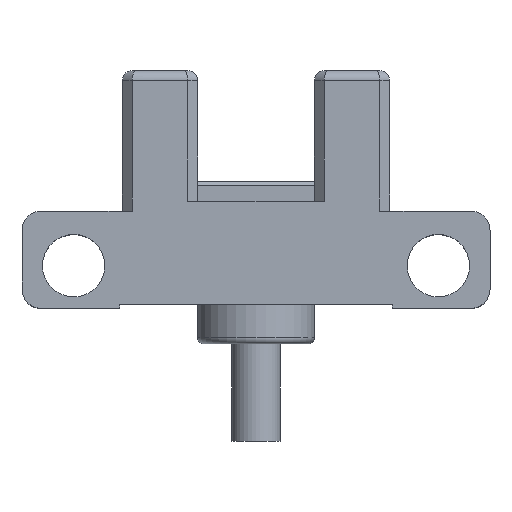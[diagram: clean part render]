
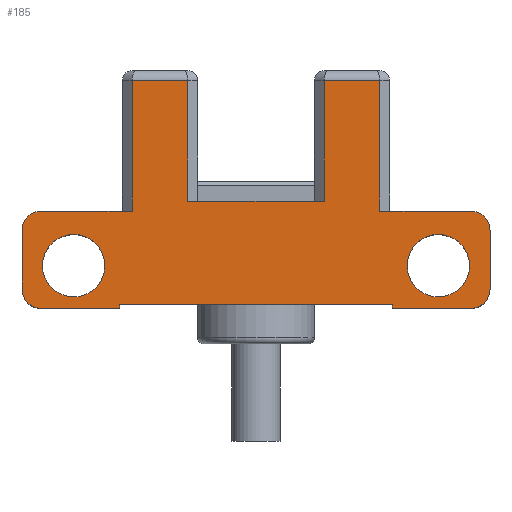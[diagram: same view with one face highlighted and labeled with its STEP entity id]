
A CAD part, top view. The second image highlights one B-rep face of the part: STEP entity #185.
In plain terms, the highlighted planar face has unit normal (0, 0, 1).
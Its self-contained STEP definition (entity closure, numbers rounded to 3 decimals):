
#83=FACE_BOUND('',#406,.T.);
#84=FACE_BOUND('',#407,.T.);
#85=FACE_BOUND('',#408,.T.);
#108=CIRCLE('',#1590,1.);
#110=CIRCLE('',#1593,1.);
#112=CIRCLE('',#1596,1.);
#114=CIRCLE('',#1599,1.);
#116=CIRCLE('',#1648,1.6);
#117=CIRCLE('',#1649,1.6);
#185=ADVANCED_FACE('',(#83,#84,#85),#247,.F.);
#247=PLANE('',#1650);
#406=EDGE_LOOP('',(#696));
#407=EDGE_LOOP('',(#697));
#408=EDGE_LOOP('',(#698,#699,#700,#701,#702,#703,#704,#705,#706,#707,#708,
#709,#710,#711,#712,#713,#714,#715,#716,#717));
#696=ORIENTED_EDGE('',*,*,#1171,.F.);
#697=ORIENTED_EDGE('',*,*,#1172,.T.);
#698=ORIENTED_EDGE('',*,*,#1173,.T.);
#699=ORIENTED_EDGE('',*,*,#1075,.T.);
#700=ORIENTED_EDGE('',*,*,#1174,.T.);
#701=ORIENTED_EDGE('',*,*,#1149,.T.);
#702=ORIENTED_EDGE('',*,*,#1094,.T.);
#703=ORIENTED_EDGE('',*,*,#1145,.T.);
#704=ORIENTED_EDGE('',*,*,#1166,.F.);
#705=ORIENTED_EDGE('',*,*,#1140,.T.);
#706=ORIENTED_EDGE('',*,*,#1106,.T.);
#707=ORIENTED_EDGE('',*,*,#1142,.T.);
#708=ORIENTED_EDGE('',*,*,#1175,.T.);
#709=ORIENTED_EDGE('',*,*,#1063,.T.);
#710=ORIENTED_EDGE('',*,*,#1176,.T.);
#711=ORIENTED_EDGE('',*,*,#1067,.T.);
#712=ORIENTED_EDGE('',*,*,#1177,.T.);
#713=ORIENTED_EDGE('',*,*,#1178,.T.);
#714=ORIENTED_EDGE('',*,*,#1179,.T.);
#715=ORIENTED_EDGE('',*,*,#1180,.T.);
#716=ORIENTED_EDGE('',*,*,#1181,.T.);
#717=ORIENTED_EDGE('',*,*,#1071,.T.);
#904=VERTEX_POINT('',#2239);
#905=VERTEX_POINT('',#2240);
#908=VERTEX_POINT('',#2248);
#909=VERTEX_POINT('',#2249);
#912=VERTEX_POINT('',#2257);
#913=VERTEX_POINT('',#2258);
#916=VERTEX_POINT('',#2266);
#917=VERTEX_POINT('',#2267);
#926=VERTEX_POINT('',#2290);
#930=VERTEX_POINT('',#2302);
#936=VERTEX_POINT('',#2323);
#939=VERTEX_POINT('',#2328);
#961=VERTEX_POINT('',#2397);
#962=VERTEX_POINT('',#2401);
#964=VERTEX_POINT('',#2407);
#967=VERTEX_POINT('',#2415);
#980=VERTEX_POINT('',#2457);
#981=VERTEX_POINT('',#2459);
#982=VERTEX_POINT('',#2465);
#983=VERTEX_POINT('',#2467);
#984=VERTEX_POINT('',#2469);
#985=VERTEX_POINT('',#2471);
#1063=EDGE_CURVE('',#904,#905,#108,.T.);
#1067=EDGE_CURVE('',#908,#909,#110,.T.);
#1071=EDGE_CURVE('',#912,#913,#112,.T.);
#1075=EDGE_CURVE('',#916,#917,#114,.T.);
#1094=EDGE_CURVE('',#930,#926,#1284,.T.);
#1106=EDGE_CURVE('',#936,#939,#1292,.T.);
#1140=EDGE_CURVE('',#961,#936,#1320,.T.);
#1142=EDGE_CURVE('',#939,#962,#1322,.T.);
#1145=EDGE_CURVE('',#926,#964,#1325,.T.);
#1149=EDGE_CURVE('',#967,#930,#1329,.T.);
#1166=EDGE_CURVE('',#961,#964,#1346,.T.);
#1171=EDGE_CURVE('',#980,#980,#116,.T.);
#1172=EDGE_CURVE('',#981,#981,#117,.T.);
#1173=EDGE_CURVE('',#913,#916,#1351,.T.);
#1174=EDGE_CURVE('',#917,#967,#1352,.T.);
#1175=EDGE_CURVE('',#962,#904,#1353,.T.);
#1176=EDGE_CURVE('',#905,#908,#1354,.T.);
#1177=EDGE_CURVE('',#909,#982,#1355,.T.);
#1178=EDGE_CURVE('',#982,#983,#1356,.T.);
#1179=EDGE_CURVE('',#983,#984,#1357,.T.);
#1180=EDGE_CURVE('',#984,#985,#1358,.T.);
#1181=EDGE_CURVE('',#985,#912,#1359,.T.);
#1284=LINE('',#2305,#1460);
#1292=LINE('',#2329,#1468);
#1320=LINE('',#2396,#1496);
#1322=LINE('',#2400,#1498);
#1325=LINE('',#2406,#1501);
#1329=LINE('',#2414,#1505);
#1346=LINE('',#2448,#1522);
#1351=LINE('',#2460,#1527);
#1352=LINE('',#2461,#1528);
#1353=LINE('',#2462,#1529);
#1354=LINE('',#2463,#1530);
#1355=LINE('',#2464,#1531);
#1356=LINE('',#2466,#1532);
#1357=LINE('',#2468,#1533);
#1358=LINE('',#2470,#1534);
#1359=LINE('',#2472,#1535);
#1460=VECTOR('',#1873,1.);
#1468=VECTOR('',#1897,1.);
#1496=VECTOR('',#1961,1.);
#1498=VECTOR('',#1965,1.);
#1501=VECTOR('',#1970,1.);
#1505=VECTOR('',#1976,1.);
#1522=VECTOR('',#2003,1.);
#1527=VECTOR('',#2016,1.);
#1528=VECTOR('',#2017,1.);
#1529=VECTOR('',#2018,1.);
#1530=VECTOR('',#2019,1.);
#1531=VECTOR('',#2020,1.);
#1532=VECTOR('',#2021,1.);
#1533=VECTOR('',#2022,1.);
#1534=VECTOR('',#2023,1.);
#1535=VECTOR('',#2024,1.);
#1590=AXIS2_PLACEMENT_3D('',#2238,#1812,#1813);
#1593=AXIS2_PLACEMENT_3D('',#2247,#1820,#1821);
#1596=AXIS2_PLACEMENT_3D('',#2256,#1828,#1829);
#1599=AXIS2_PLACEMENT_3D('',#2265,#1836,#1837);
#1648=AXIS2_PLACEMENT_3D('',#2456,#2012,#2013);
#1649=AXIS2_PLACEMENT_3D('',#2458,#2014,#2015);
#1650=AXIS2_PLACEMENT_3D('',#2473,#2025,#2026);
#1812=DIRECTION('',(0.,0.,1.));
#1813=DIRECTION('',(-1.,0.,0.));
#1820=DIRECTION('',(0.,0.,1.));
#1821=DIRECTION('',(-1.,0.,0.));
#1828=DIRECTION('',(0.,0.,1.));
#1829=DIRECTION('',(-1.,0.,0.));
#1836=DIRECTION('',(0.,0.,1.));
#1837=DIRECTION('',(-1.,0.,0.));
#1873=DIRECTION('',(-1.,0.,0.));
#1897=DIRECTION('',(-1.,0.,0.));
#1961=DIRECTION('',(0.,1.,0.));
#1965=DIRECTION('',(0.,-1.,0.));
#1970=DIRECTION('',(0.,-1.,0.));
#1976=DIRECTION('',(0.,1.,0.));
#2003=DIRECTION('',(1.,0.,0.));
#2012=DIRECTION('',(0.,0.,1.));
#2013=DIRECTION('',(1.,0.,0.));
#2014=DIRECTION('',(0.,0.,-1.));
#2015=DIRECTION('',(-1.,0.,0.));
#2016=DIRECTION('',(0.,1.,0.));
#2017=DIRECTION('',(-1.,0.,0.));
#2018=DIRECTION('',(-1.,0.,0.));
#2019=DIRECTION('',(0.,-1.,0.));
#2020=DIRECTION('',(1.,0.,0.));
#2021=DIRECTION('',(0.,1.,0.));
#2022=DIRECTION('',(1.,0.,0.));
#2023=DIRECTION('',(0.,-1.,0.));
#2024=DIRECTION('',(1.,0.,0.));
#2025=DIRECTION('',(0.,0.,-1.));
#2026=DIRECTION('',(-1.,0.,0.));
#2238=CARTESIAN_POINT('',(-11.,4.,3.3));
#2239=CARTESIAN_POINT('',(-11.,5.,3.3));
#2240=CARTESIAN_POINT('',(-12.,4.,3.3));
#2247=CARTESIAN_POINT('',(-11.,1.,3.3));
#2248=CARTESIAN_POINT('',(-12.,1.,3.3));
#2249=CARTESIAN_POINT('',(-11.,0.,3.3));
#2256=CARTESIAN_POINT('',(11.,1.,3.3));
#2257=CARTESIAN_POINT('',(11.,0.,3.3));
#2258=CARTESIAN_POINT('',(12.,1.,3.3));
#2265=CARTESIAN_POINT('',(11.,4.,3.3));
#2266=CARTESIAN_POINT('',(12.,4.,3.3));
#2267=CARTESIAN_POINT('',(11.,5.,3.3));
#2290=CARTESIAN_POINT('',(3.5,11.7,3.3));
#2302=CARTESIAN_POINT('',(6.35,11.7,3.3));
#2305=CARTESIAN_POINT('',(9.35,11.7,3.3));
#2323=CARTESIAN_POINT('',(-3.5,11.7,3.3));
#2328=CARTESIAN_POINT('',(-6.35,11.7,3.3));
#2329=CARTESIAN_POINT('',(9.35,11.7,3.3));
#2396=CARTESIAN_POINT('',(-3.5,2.2,3.3));
#2397=CARTESIAN_POINT('',(-3.5,5.5,3.3));
#2400=CARTESIAN_POINT('',(-6.35,2.2,3.3));
#2401=CARTESIAN_POINT('',(-6.35,5.,3.3));
#2406=CARTESIAN_POINT('',(3.5,2.2,3.3));
#2407=CARTESIAN_POINT('',(3.5,5.5,3.3));
#2414=CARTESIAN_POINT('',(6.35,2.2,3.3));
#2415=CARTESIAN_POINT('',(6.35,5.,3.3));
#2448=CARTESIAN_POINT('',(-3.,5.5,3.3));
#2456=CARTESIAN_POINT('',(-9.35,2.2,3.3));
#2457=CARTESIAN_POINT('',(-7.75,2.2,3.3));
#2458=CARTESIAN_POINT('',(9.35,2.2,3.3));
#2459=CARTESIAN_POINT('',(7.75,2.2,3.3));
#2460=CARTESIAN_POINT('',(12.,0.,3.3));
#2461=CARTESIAN_POINT('',(12.,5.,3.3));
#2462=CARTESIAN_POINT('',(9.35,5.,3.3));
#2463=CARTESIAN_POINT('',(-12.,5.,3.3));
#2464=CARTESIAN_POINT('',(-12.,0.,3.3));
#2465=CARTESIAN_POINT('',(-7.,0.,3.3));
#2466=CARTESIAN_POINT('',(-7.,0.,3.3));
#2467=CARTESIAN_POINT('',(-7.,0.2,3.3));
#2468=CARTESIAN_POINT('',(-7.,0.2,3.3));
#2469=CARTESIAN_POINT('',(7.,0.2,3.3));
#2470=CARTESIAN_POINT('',(7.,0.2,3.3));
#2471=CARTESIAN_POINT('',(7.,0.,3.3));
#2472=CARTESIAN_POINT('',(9.35,0.,3.3));
#2473=CARTESIAN_POINT('',(9.35,2.2,3.3));
